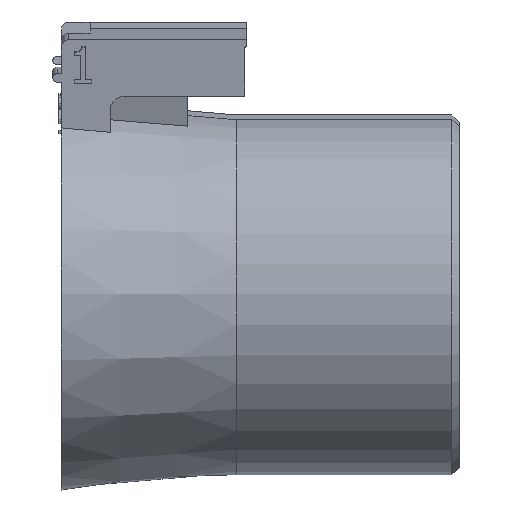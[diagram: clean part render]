
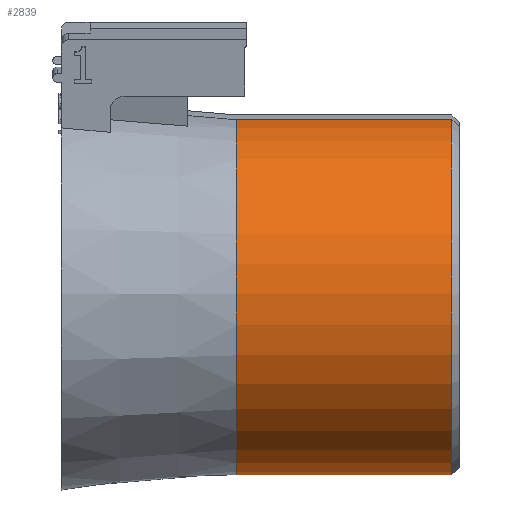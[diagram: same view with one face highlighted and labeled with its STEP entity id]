
A CAD part, front view. The second image highlights one B-rep face of the part: STEP entity #2839.
In plain terms, the highlighted cylindrical face has radius 12.5 mm (diameter 25 mm), a partial arc.
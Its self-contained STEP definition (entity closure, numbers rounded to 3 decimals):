
#54=CIRCLE('',#3015,12.5);
#57=CIRCLE('',#3019,12.5);
#105=CYLINDRICAL_SURFACE('',#3018,12.5);
#426=FACE_OUTER_BOUND('',#582,.T.);
#582=EDGE_LOOP('',(#2433,#2434,#2435,#2436));
#843=LINE('',#4690,#1123);
#868=LINE('',#4758,#1148);
#1123=VECTOR('',#3517,10.);
#1148=VECTOR('',#3564,10.);
#1399=VERTEX_POINT('',#4687);
#1400=VERTEX_POINT('',#4689);
#1420=VERTEX_POINT('',#4739);
#1425=VERTEX_POINT('',#4757);
#1753=EDGE_CURVE('',#1400,#1399,#843,.T.);
#1780=EDGE_CURVE('',#1420,#1399,#54,.T.);
#1786=EDGE_CURVE('',#1425,#1420,#868,.T.);
#1787=EDGE_CURVE('',#1400,#1425,#57,.T.);
#2433=ORIENTED_EDGE('',*,*,#1786,.F.);
#2434=ORIENTED_EDGE('',*,*,#1787,.F.);
#2435=ORIENTED_EDGE('',*,*,#1753,.T.);
#2436=ORIENTED_EDGE('',*,*,#1780,.F.);
#2839=ADVANCED_FACE('',(#426),#105,.T.);
#3015=AXIS2_PLACEMENT_3D('',#4744,#3554,#3555);
#3018=AXIS2_PLACEMENT_3D('',#4756,#3562,#3563);
#3019=AXIS2_PLACEMENT_3D('',#4759,#3565,#3566);
#3517=DIRECTION('',(-1.,0.,0.));
#3554=DIRECTION('center_axis',(-1.,0.,0.));
#3555=DIRECTION('ref_axis',(0.,-0.985,-0.174));
#3562=DIRECTION('center_axis',(-1.,0.,0.));
#3563=DIRECTION('ref_axis',(0.,-0.985,-0.174));
#3564=DIRECTION('',(-1.,0.,0.));
#3565=DIRECTION('center_axis',(1.,0.,0.));
#3566=DIRECTION('ref_axis',(0.,0.985,0.174));
#4687=CARTESIAN_POINT('',(11.43,-3.89,12.16));
#4689=CARTESIAN_POINT('',(26.5,-3.89,12.16));
#4690=CARTESIAN_POINT('',(19.215,-3.89,12.16));
#4739=CARTESIAN_POINT('',(11.43,0.227,-12.498));
#4744=CARTESIAN_POINT('Origin',(11.43,-1.719,-0.15));
#4756=CARTESIAN_POINT('Origin',(19.215,-1.719,-0.15));
#4757=CARTESIAN_POINT('',(26.5,0.227,-12.498));
#4758=CARTESIAN_POINT('',(19.215,0.227,-12.498));
#4759=CARTESIAN_POINT('Origin',(26.5,-1.719,-0.15));
